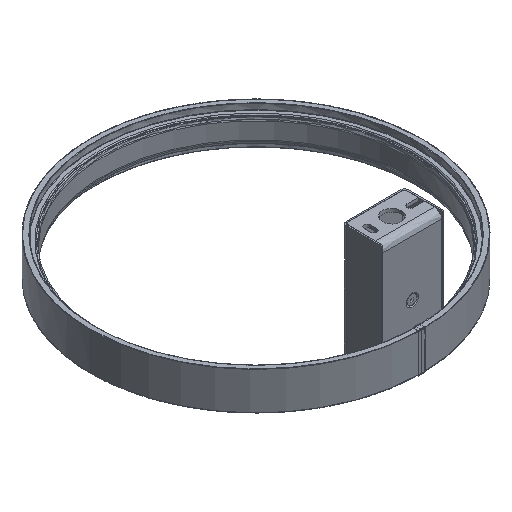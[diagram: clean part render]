
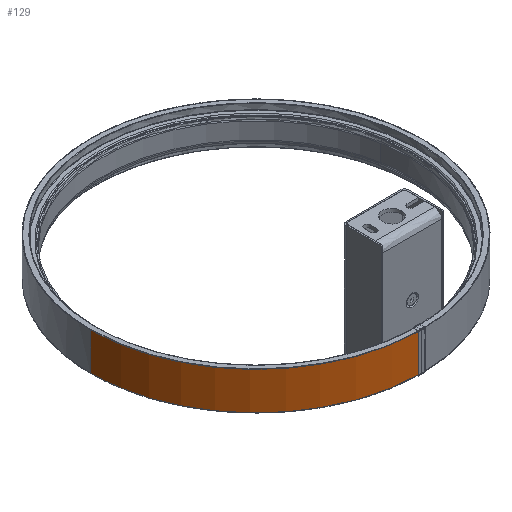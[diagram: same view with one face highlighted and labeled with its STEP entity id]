
A CAD part, isometric view. The second image highlights one B-rep face of the part: STEP entity #129.
In plain terms, the highlighted free-form (B-spline) face has degree [2, 1] with [9, 2] control points.
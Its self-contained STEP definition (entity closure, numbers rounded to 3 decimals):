
#129=ADVANCED_FACE('',(#516),#5696,.T.);
#516=FACE_OUTER_BOUND('',#903,.T.);
#903=EDGE_LOOP('',(#1387,#1388,#1389,#1390));
#1387=ORIENTED_EDGE('',*,*,#3219,.T.);
#1388=ORIENTED_EDGE('',*,*,#3218,.F.);
#1389=ORIENTED_EDGE('',*,*,#3167,.F.);
#1390=ORIENTED_EDGE('',*,*,#3220,.T.);
#3167=EDGE_CURVE('',#5008,#5004,#4543,.T.);
#3218=EDGE_CURVE('',#5004,#5017,#4044,.T.);
#3219=EDGE_CURVE('',#5051,#5017,#4593,.T.);
#3220=EDGE_CURVE('',#5008,#5051,#4045,.T.);
#4044=B_SPLINE_CURVE_WITH_KNOTS('',1,(#11413,#11414),.UNSPECIFIED.,.F.,
 .F.,(2,2),(0.,29.6),.UNSPECIFIED.);
#4045=B_SPLINE_CURVE_WITH_KNOTS('',1,(#11418,#11419),.UNSPECIFIED.,.F.,
 .F.,(2,2),(0.,29.6),.UNSPECIFIED.);
#4543=(
BOUNDED_CURVE()
B_SPLINE_CURVE(2,(#11233,#11234,#11235),.UNSPECIFIED.,.F.,.F.)
B_SPLINE_CURVE_WITH_KNOTS((3,3),(611.895,815.557),
 .UNSPECIFIED.)
CURVE()
GEOMETRIC_REPRESENTATION_ITEM()
RATIONAL_B_SPLINE_CURVE((1.,0.708,1.))
REPRESENTATION_ITEM('')
);
#4593=(
BOUNDED_CURVE()
B_SPLINE_CURVE(2,(#11415,#11416,#11417),.UNSPECIFIED.,.F.,.F.)
B_SPLINE_CURVE_WITH_KNOTS((3,3),(0.,203.977),.UNSPECIFIED.)
CURVE()
GEOMETRIC_REPRESENTATION_ITEM()
RATIONAL_B_SPLINE_CURVE((1.,0.708,1.))
REPRESENTATION_ITEM('')
);
#5004=VERTEX_POINT('',#10954);
#5008=VERTEX_POINT('',#10958);
#5017=VERTEX_POINT('',#10967);
#5051=VERTEX_POINT('',#11001);
#5696=(
BOUNDED_SURFACE()
B_SPLINE_SURFACE(2,1,((#8763,#8764),(#8765,#8766),(#8767,#8768),(#8769,
#8770),(#8771,#8772),(#8773,#8774),(#8775,#8776),(#8777,#8778),(#8779,#8780)),
 .UNSPECIFIED.,.T.,.F.,.F.)
B_SPLINE_SURFACE_WITH_KNOTS((3,2,2,2,3),(2,2),(0.,204.204,408.407,
612.611,816.814),(0.,35.52),.UNSPECIFIED.)
GEOMETRIC_REPRESENTATION_ITEM()
RATIONAL_B_SPLINE_SURFACE(((1.,1.),(0.707,0.707),
(1.,1.),(0.707,0.707),(1.,1.),(0.707,
0.707),(1.,1.),(0.707,0.707),(1.,1.)))
REPRESENTATION_ITEM('')
SURFACE()
);
#8763=CARTESIAN_POINT('',(0.,-17.76,-130.));
#8764=CARTESIAN_POINT('',(0.,17.76,-130.));
#8765=CARTESIAN_POINT('',(-130.,-17.76,-130.));
#8766=CARTESIAN_POINT('',(-130.,17.76,-130.));
#8767=CARTESIAN_POINT('',(-130.,-17.76,0.));
#8768=CARTESIAN_POINT('',(-130.,17.76,0.));
#8769=CARTESIAN_POINT('',(-130.,-17.76,130.));
#8770=CARTESIAN_POINT('',(-130.,17.76,130.));
#8771=CARTESIAN_POINT('',(0.,-17.76,130.));
#8772=CARTESIAN_POINT('',(0.,17.76,130.));
#8773=CARTESIAN_POINT('',(130.,-17.76,130.));
#8774=CARTESIAN_POINT('',(130.,17.76,130.));
#8775=CARTESIAN_POINT('',(130.,-17.76,0.));
#8776=CARTESIAN_POINT('',(130.,17.76,0.));
#8777=CARTESIAN_POINT('',(130.,-17.76,-130.));
#8778=CARTESIAN_POINT('',(130.,17.76,-130.));
#8779=CARTESIAN_POINT('',(0.,-17.76,-130.));
#8780=CARTESIAN_POINT('',(0.,17.76,-130.));
#10954=CARTESIAN_POINT('',(0.,14.8,130.));
#10958=CARTESIAN_POINT('',(-130.,14.8,0.227));
#10967=CARTESIAN_POINT('',(0.,-14.8,130.));
#11001=CARTESIAN_POINT('',(-130.,-14.8,0.227));
#11233=CARTESIAN_POINT('',(-130.,14.8,0.227));
#11234=CARTESIAN_POINT('',(-129.773,14.8,130.));
#11235=CARTESIAN_POINT('',(0.,14.8,130.));
#11413=CARTESIAN_POINT('',(0.,14.8,130.));
#11414=CARTESIAN_POINT('',(0.,-14.8,130.));
#11415=CARTESIAN_POINT('',(-130.,-14.8,0.227));
#11416=CARTESIAN_POINT('',(-129.773,-14.8,130.));
#11417=CARTESIAN_POINT('',(0.,-14.8,130.));
#11418=CARTESIAN_POINT('',(-130.,14.8,0.227));
#11419=CARTESIAN_POINT('',(-130.,-14.8,0.227));
